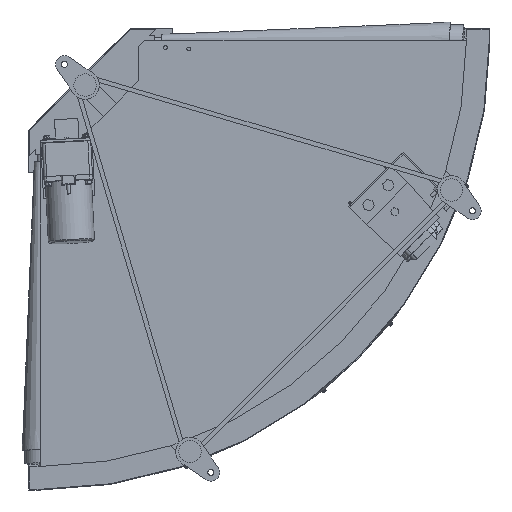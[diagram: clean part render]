
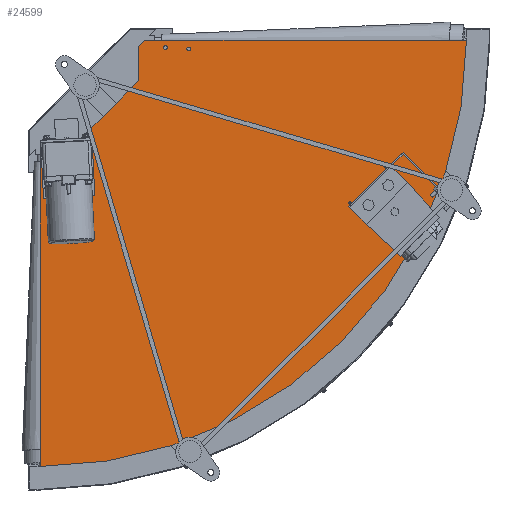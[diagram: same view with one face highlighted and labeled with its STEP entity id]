
A CAD part, front view. The second image highlights one B-rep face of the part: STEP entity #24599.
In plain terms, the highlighted planar face has unit normal (0, -1, 0).
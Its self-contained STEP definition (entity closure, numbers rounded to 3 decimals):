
#809 = FACE_BOUND ( 'NONE', #33738, .T. ) ;
#832 = CIRCLE ( 'NONE', #5810, 4. ) ;
#906 = EDGE_CURVE ( 'NONE', #18565, #8139, #3942, .T. ) ;
#1052 = VERTEX_POINT ( 'NONE', #23076 ) ;
#1122 = CARTESIAN_POINT ( 'NONE',  ( 18.5, -152.7, -321.937 ) ) ;
#1659 = VERTEX_POINT ( 'NONE', #20841 ) ;
#2289 = DIRECTION ( 'NONE',  ( 0., 0., -1. ) ) ;
#2379 = CIRCLE ( 'NONE', #11823, 4. ) ;
#2548 = CARTESIAN_POINT ( 'NONE',  ( 268., -152.7, -16. ) ) ;
#2938 = CARTESIAN_POINT ( 'NONE',  ( 18.5, -152.7, -317.937 ) ) ;
#3261 = EDGE_CURVE ( 'NONE', #1052, #5566, #2379, .T. ) ;
#3328 = AXIS2_PLACEMENT_3D ( 'NONE', #2548, #11473, #2289 ) ;
#3942 = CIRCLE ( 'NONE', #35566, 4. ) ;
#4532 = LINE ( 'NONE', #29981, #16511 ) ;
#4617 = DIRECTION ( 'NONE',  ( 0., -1., 0. ) ) ;
#4789 = DIRECTION ( 'NONE',  ( 0., -1., 0. ) ) ;
#4798 = ORIENTED_EDGE ( 'NONE', *, *, #906, .F. ) ;
#5566 = VERTEX_POINT ( 'NONE', #9830 ) ;
#5761 = EDGE_CURVE ( 'NONE', #5566, #1052, #20569, .T. ) ;
#5810 = AXIS2_PLACEMENT_3D ( 'NONE', #2938, #17270, #28897 ) ;
#6424 = ORIENTED_EDGE ( 'NONE', *, *, #27529, .F. ) ;
#6517 = CARTESIAN_POINT ( 'NONE',  ( 912.5, -152.7, 0. ) ) ;
#6537 = EDGE_CURVE ( 'NONE', #37531, #18274, #4532, .T. ) ;
#6640 = DIRECTION ( 'NONE',  ( 0., 0., 1. ) ) ;
#6755 = VERTEX_POINT ( 'NONE', #20237 ) ;
#6872 = DIRECTION ( 'NONE',  ( 0., 0., -1. ) ) ;
#6950 = VERTEX_POINT ( 'NONE', #6517 ) ;
#6966 = EDGE_CURVE ( 'NONE', #8139, #18565, #32032, .T. ) ;
#6974 = CARTESIAN_POINT ( 'NONE',  ( 317.937, -152.7, -14.5 ) ) ;
#7721 = VERTEX_POINT ( 'NONE', #1122 ) ;
#7806 = DIRECTION ( 'NONE',  ( 0., -1., 0. ) ) ;
#8055 = DIRECTION ( 'NONE',  ( 0., 0., 1. ) ) ;
#8098 = FACE_BOUND ( 'NONE', #11783, .T. ) ;
#8108 = EDGE_CURVE ( 'NONE', #13552, #7721, #832, .T. ) ;
#8120 = DIRECTION ( 'NONE',  ( 1., 0., 0. ) ) ;
#8139 = VERTEX_POINT ( 'NONE', #14332 ) ;
#8528 = EDGE_CURVE ( 'NONE', #18274, #1659, #16365, .T. ) ;
#8965 = DIRECTION ( 'NONE',  ( 0., 1., 0. ) ) ;
#9711 = ORIENTED_EDGE ( 'NONE', *, *, #5761, .F. ) ;
#9830 = CARTESIAN_POINT ( 'NONE',  ( 268., -152.7, -20. ) ) ;
#9891 = ORIENTED_EDGE ( 'NONE', *, *, #19773, .F. ) ;
#9912 = DIRECTION ( 'NONE',  ( 0., -1., 0. ) ) ;
#10841 = VECTOR ( 'NONE', #8120, 1000. ) ;
#11087 = DIRECTION ( 'NONE',  ( 0., 0., 1. ) ) ;
#11183 = CARTESIAN_POINT ( 'NONE',  ( 18.5, -152.7, -313.937 ) ) ;
#11257 = CIRCLE ( 'NONE', #14231, 4. ) ;
#11331 = VECTOR ( 'NONE', #12756, 1000. ) ;
#11473 = DIRECTION ( 'NONE',  ( 0., -1., 0. ) ) ;
#11565 = CARTESIAN_POINT ( 'NONE',  ( 224., -152.7, 0. ) ) ;
#11783 = EDGE_LOOP ( 'NONE', ( #24320, #33457 ) ) ;
#11823 = AXIS2_PLACEMENT_3D ( 'NONE', #25595, #7806, #14223 ) ;
#12522 = CARTESIAN_POINT ( 'NONE',  ( 0., -152.7, -912.5 ) ) ;
#12731 = ORIENTED_EDGE ( 'NONE', *, *, #8528, .F. ) ;
#12756 = DIRECTION ( 'NONE',  ( 0., 0., 1. ) ) ;
#13528 = CARTESIAN_POINT ( 'NONE',  ( 16., -152.7, -264. ) ) ;
#13552 = VERTEX_POINT ( 'NONE', #11183 ) ;
#13634 = FACE_OUTER_BOUND ( 'NONE', #25561, .T. ) ;
#14038 = CARTESIAN_POINT ( 'NONE',  ( 86.985, -152.7, -210. ) ) ;
#14223 = DIRECTION ( 'NONE',  ( 0., 0., -1. ) ) ;
#14231 = AXIS2_PLACEMENT_3D ( 'NONE', #37125, #37252, #34200 ) ;
#14332 = CARTESIAN_POINT ( 'NONE',  ( 16., -152.7, -272. ) ) ;
#14545 = LINE ( 'NONE', #27874, #31012 ) ;
#14685 = EDGE_CURVE ( 'NONE', #26155, #31953, #22148, .T. ) ;
#15271 = EDGE_CURVE ( 'NONE', #1659, #26155, #19351, .T. ) ;
#16365 = LINE ( 'NONE', #14038, #10841 ) ;
#16511 = VECTOR ( 'NONE', #33059, 1000. ) ;
#16623 = CARTESIAN_POINT ( 'NONE',  ( 210., -152.7, -86.985 ) ) ;
#17270 = DIRECTION ( 'NONE',  ( 0., -1., 0. ) ) ;
#17447 = VERTEX_POINT ( 'NONE', #6974 ) ;
#17514 = ORIENTED_EDGE ( 'NONE', *, *, #3261, .F. ) ;
#18160 = EDGE_CURVE ( 'NONE', #26751, #6950, #14545, .T. ) ;
#18163 = DIRECTION ( 'NONE',  ( 0., 0., 1. ) ) ;
#18274 = VERTEX_POINT ( 'NONE', #28384 ) ;
#18476 = VERTEX_POINT ( 'NONE', #12522 ) ;
#18565 = VERTEX_POINT ( 'NONE', #13528 ) ;
#18860 = DIRECTION ( 'NONE',  ( 0.707, 0., 0.707 ) ) ;
#19045 = ORIENTED_EDGE ( 'NONE', *, *, #18160, .F. ) ;
#19173 = AXIS2_PLACEMENT_3D ( 'NONE', #21479, #9912, #6872 ) ;
#19351 = LINE ( 'NONE', #27959, #29888 ) ;
#19678 = CARTESIAN_POINT ( 'NONE',  ( 0., -152.7, -224. ) ) ;
#19773 = EDGE_CURVE ( 'NONE', #6755, #17447, #27279, .T. ) ;
#20237 = CARTESIAN_POINT ( 'NONE',  ( 317.937, -152.7, -22.5 ) ) ;
#20569 = CIRCLE ( 'NONE', #3328, 4. ) ;
#20604 = ORIENTED_EDGE ( 'NONE', *, *, #14685, .F. ) ;
#20714 = PLANE ( 'NONE',  #31018 ) ;
#20768 = CARTESIAN_POINT ( 'NONE',  ( 0., -152.7, 0. ) ) ;
#20841 = CARTESIAN_POINT ( 'NONE',  ( 86.985, -152.7, -210. ) ) ;
#20880 = EDGE_LOOP ( 'NONE', ( #9711, #17514 ) ) ;
#20885 = ORIENTED_EDGE ( 'NONE', *, *, #21133, .F. ) ;
#21133 = EDGE_CURVE ( 'NONE', #6950, #18476, #33569, .T. ) ;
#21245 = AXIS2_PLACEMENT_3D ( 'NONE', #24182, #29817, #6640 ) ;
#21415 = AXIS2_PLACEMENT_3D ( 'NONE', #20768, #8965, #32290 ) ;
#21479 = CARTESIAN_POINT ( 'NONE',  ( 317.937, -152.7, -18.5 ) ) ;
#22148 = LINE ( 'NONE', #22529, #29926 ) ;
#22324 = FACE_BOUND ( 'NONE', #29371, .T. ) ;
#22486 = DIRECTION ( 'NONE',  ( 0.707, 0., 0.707 ) ) ;
#22529 = CARTESIAN_POINT ( 'NONE',  ( 210., -152.7, -14. ) ) ;
#23076 = CARTESIAN_POINT ( 'NONE',  ( 268., -152.7, -12. ) ) ;
#23445 = CIRCLE ( 'NONE', #34183, 4. ) ;
#23907 = CARTESIAN_POINT ( 'NONE',  ( 0., -152.7, 0. ) ) ;
#24182 = CARTESIAN_POINT ( 'NONE',  ( 16., -152.7, -268. ) ) ;
#24320 = ORIENTED_EDGE ( 'NONE', *, *, #31177, .F. ) ;
#24599 = ADVANCED_FACE ( 'NONE', ( #809, #8098, #22324, #26902, #13634 ), #20714, .F. ) ;
#25561 = EDGE_LOOP ( 'NONE', ( #26570, #20604, #33081, #12731, #35169, #6424, #20885, #19045 ) ) ;
#25595 = CARTESIAN_POINT ( 'NONE',  ( 268., -152.7, -16. ) ) ;
#26155 = VERTEX_POINT ( 'NONE', #16623 ) ;
#26570 = ORIENTED_EDGE ( 'NONE', *, *, #30460, .F. ) ;
#26751 = VERTEX_POINT ( 'NONE', #11565 ) ;
#26902 = FACE_BOUND ( 'NONE', #20880, .T. ) ;
#26960 = DIRECTION ( 'NONE',  ( 0., 1., 0. ) ) ;
#27279 = CIRCLE ( 'NONE', #19173, 4. ) ;
#27529 = EDGE_CURVE ( 'NONE', #18476, #37531, #32885, .T. ) ;
#27874 = CARTESIAN_POINT ( 'NONE',  ( 224., -152.7, 0. ) ) ;
#27959 = CARTESIAN_POINT ( 'NONE',  ( 210., -152.7, -86.985 ) ) ;
#28201 = EDGE_CURVE ( 'NONE', #17447, #6755, #11257, .T. ) ;
#28251 = ORIENTED_EDGE ( 'NONE', *, *, #6966, .F. ) ;
#28384 = CARTESIAN_POINT ( 'NONE',  ( 14., -152.7, -210. ) ) ;
#28897 = DIRECTION ( 'NONE',  ( 0., 0., 1. ) ) ;
#29371 = EDGE_LOOP ( 'NONE', ( #28251, #4798 ) ) ;
#29432 = ORIENTED_EDGE ( 'NONE', *, *, #28201, .F. ) ;
#29817 = DIRECTION ( 'NONE',  ( 0., -1., 0. ) ) ;
#29888 = VECTOR ( 'NONE', #22486, 1000. ) ;
#29926 = VECTOR ( 'NONE', #8055, 1000. ) ;
#29981 = CARTESIAN_POINT ( 'NONE',  ( 0., -152.7, -224. ) ) ;
#30460 = EDGE_CURVE ( 'NONE', #31953, #26751, #31738, .T. ) ;
#30743 = CARTESIAN_POINT ( 'NONE',  ( 0., -152.7, -224. ) ) ;
#31012 = VECTOR ( 'NONE', #33666, 1000. ) ;
#31018 = AXIS2_PLACEMENT_3D ( 'NONE', #23907, #26960, #18163 ) ;
#31177 = EDGE_CURVE ( 'NONE', #7721, #13552, #23445, .T. ) ;
#31248 = VECTOR ( 'NONE', #18860, 1000. ) ;
#31738 = LINE ( 'NONE', #30743, #31248 ) ;
#31953 = VERTEX_POINT ( 'NONE', #37948 ) ;
#32032 = CIRCLE ( 'NONE', #21245, 4. ) ;
#32290 = DIRECTION ( 'NONE',  ( 0., 0., 1. ) ) ;
#32839 = CARTESIAN_POINT ( 'NONE',  ( 0., -152.7, -912.5 ) ) ;
#32885 = LINE ( 'NONE', #32839, #11331 ) ;
#33059 = DIRECTION ( 'NONE',  ( 0.707, 0., 0.707 ) ) ;
#33081 = ORIENTED_EDGE ( 'NONE', *, *, #15271, .F. ) ;
#33457 = ORIENTED_EDGE ( 'NONE', *, *, #8108, .F. ) ;
#33569 = CIRCLE ( 'NONE', #21415, 912.5 ) ;
#33660 = CARTESIAN_POINT ( 'NONE',  ( 18.5, -152.7, -317.937 ) ) ;
#33666 = DIRECTION ( 'NONE',  ( 1., 0., 0. ) ) ;
#33738 = EDGE_LOOP ( 'NONE', ( #9891, #29432 ) ) ;
#34183 = AXIS2_PLACEMENT_3D ( 'NONE', #33660, #4617, #11087 ) ;
#34200 = DIRECTION ( 'NONE',  ( 0., 0., -1. ) ) ;
#34468 = DIRECTION ( 'NONE',  ( 0., 0., 1. ) ) ;
#35169 = ORIENTED_EDGE ( 'NONE', *, *, #6537, .F. ) ;
#35566 = AXIS2_PLACEMENT_3D ( 'NONE', #37021, #4789, #34468 ) ;
#37021 = CARTESIAN_POINT ( 'NONE',  ( 16., -152.7, -268. ) ) ;
#37125 = CARTESIAN_POINT ( 'NONE',  ( 317.937, -152.7, -18.5 ) ) ;
#37252 = DIRECTION ( 'NONE',  ( 0., -1., 0. ) ) ;
#37531 = VERTEX_POINT ( 'NONE', #19678 ) ;
#37948 = CARTESIAN_POINT ( 'NONE',  ( 210., -152.7, -14. ) ) ;
